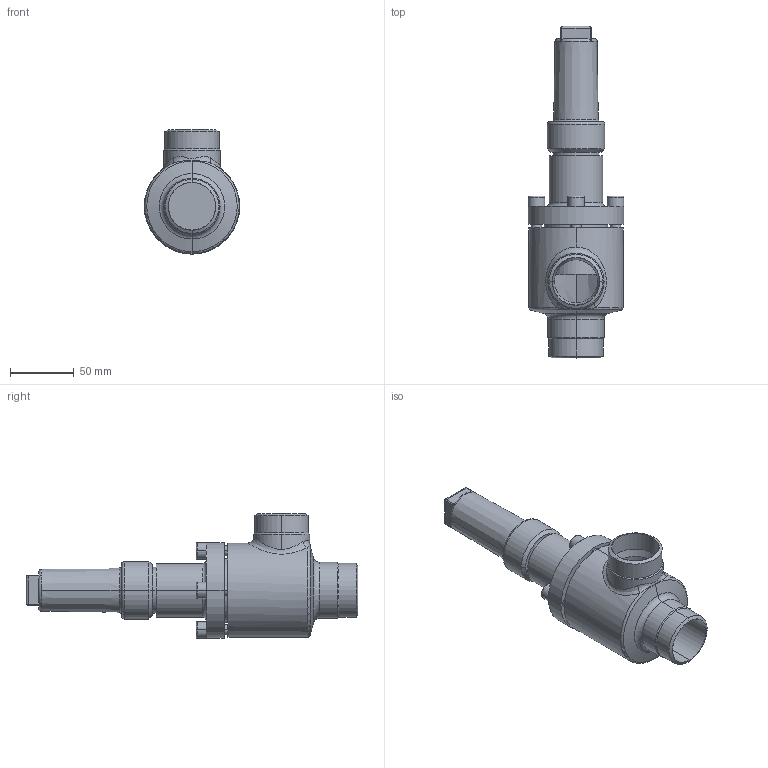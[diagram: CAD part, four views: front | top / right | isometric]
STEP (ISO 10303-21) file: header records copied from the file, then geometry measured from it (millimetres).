
FILE_DESCRIPTION (( 'STEP AP214' ), '1' );
FILE_NAME ('RVA29400D13-DN032_R1_PS40.STEP', '2006-04-28T05:40:02', ( 'Herr Grams' ), ( 'AWP GmbH' ), 'SwSTEP 2.0', 'SolidWorks 2002296', '' );
FILE_SCHEMA (( 'AUTOMOTIVE_DESIGN' ));
Length unit declared in the file: millimetre
Products named in the file (6): RVA29400D13-DN032_R1_PS40; RVA29300E13_Deck-Schr-DN25-32_Standard; Deckel29300E13-DN25-32_Standard; Zylinderschraube-DIN912_M 8x 25; Gehäuse16400-DN032_Standard; Kappe16402_DN010-32_Standard
Assembly tree (8 placements, depth 3):
  RVA29400D13-DN032_R1_PS40
    RVA29300E13_Deck-Schr-DN25-32_Standard
      Zylinderschraube-DIN912_M 8x 25  x4
      Deckel29300E13-DN25-32_Standard
    Kappe16402_DN010-32_Standard
    Gehäuse16400-DN032_Standard
Bounding box: 75 x 260.5 x 97.5 mm (x, y, z)
Volume: 420399.5 mm3; surface area: 96092 mm2
Topology: 7 solids, 7 shells, 199 faces, 438 edges, 273 vertices
Faces by surface type: cylinder 76, plane 68, cone 30, torus 23, bspline 2
Entity records: 14425 total; most frequent: CARTESIAN_POINT 10606, DIRECTION 760, ORIENTED_EDGE 648, EDGE_CURVE 324, AXIS2_PLACEMENT_3D 321, VERTEX_POINT 201, EDGE_LOOP 171, CIRCLE 166
